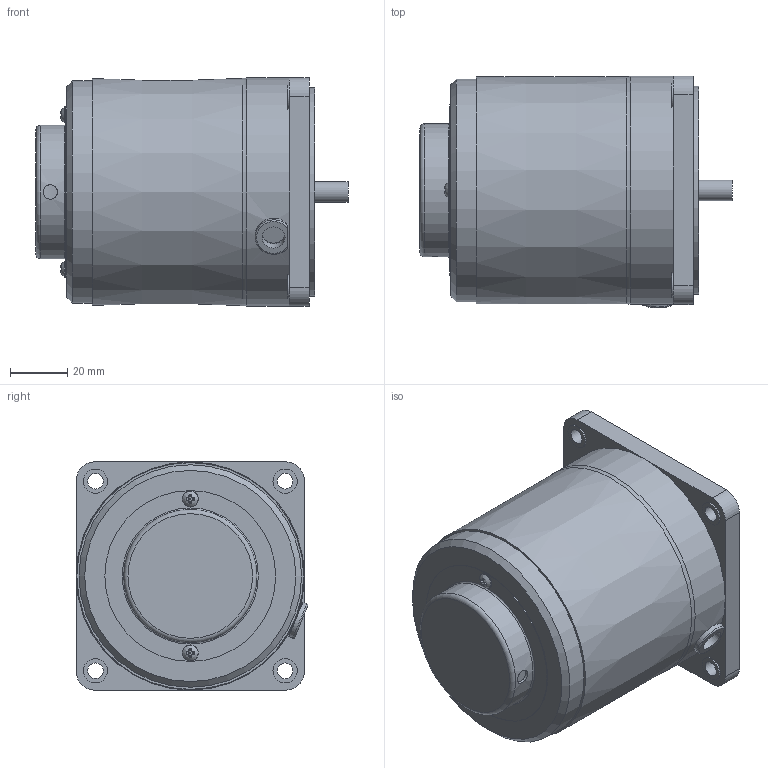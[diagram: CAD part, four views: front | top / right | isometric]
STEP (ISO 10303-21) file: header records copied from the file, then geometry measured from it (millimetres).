
FILE_DESCRIPTION((''),'2;1');
FILE_NAME('\\192.168.2.97\고객배포용도면\3D\Small Standard Series\AC MOTOR\15W25W MOTOR\SPEED CONTROL TYPE\S8I15(25)G-S_.stp','2013-11-22T14:28:16',('jy-jung'),(''),'Autodesk Inventor 2011','Autodesk Inventor 2011','');
FILE_SCHEMA(('AUTOMOTIVE_DESIGN { 1 0 10303 214 1 1 1 1 }'));
Length unit declared in the file: millimetre
Products named in the file (1): 부품5
Bounding box: 109.4 x 81.2 x 80 mm (x, y, z)
Volume: 445833.6 mm3; surface area: 38874.5 mm2
Topology: 1 solids, 6 shells, 140 faces, 316 edges, 205 vertices
Faces by surface type: plane 85, cylinder 42, torus 9, bspline 2, cone 2
Full cylindrical faces by diameter (mm): 3 x2, 3.5 x2, 5 x1, 5.5 x4, 5.6 x2, 7.2 x1, 8 x1, 8.5 x4, 34 x1, 44.7 x1, 46.7 x1, 59.9 x1, 73 x1, 78 x1, 80 x1
Entity records: 4047 total; most frequent: CARTESIAN_POINT 955, DIRECTION 620, ORIENTED_EDGE 554, EDGE_CURVE 277, AXIS2_PLACEMENT_3D 235, EDGE_LOOP 207, VERTEX_POINT 202, VECTOR 150
